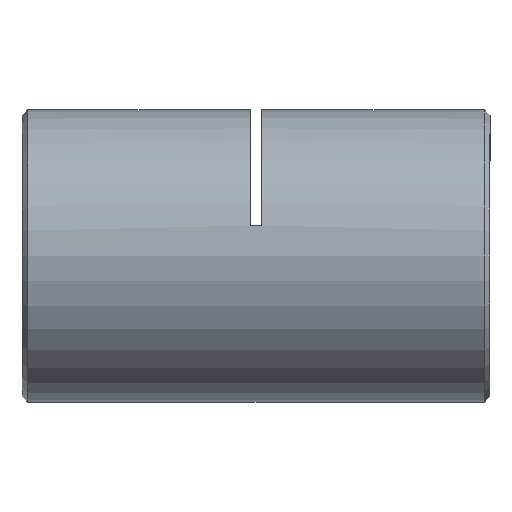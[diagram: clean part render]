
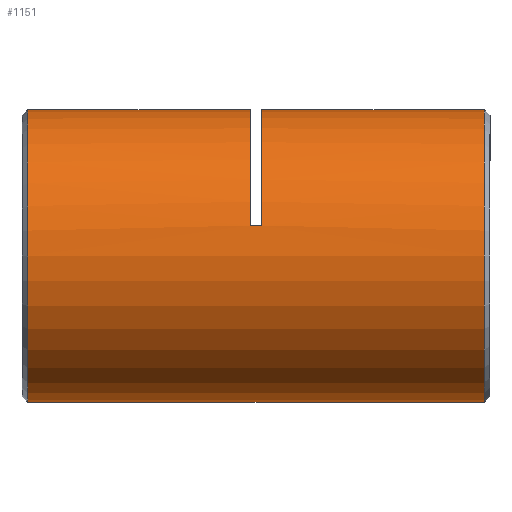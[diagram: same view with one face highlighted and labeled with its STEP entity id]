
A CAD part, left-side view. The second image highlights one B-rep face of the part: STEP entity #1151.
In plain terms, the highlighted cylindrical face has radius 12.5 mm (diameter 25 mm), a partial arc.
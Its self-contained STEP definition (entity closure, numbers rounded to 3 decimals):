
#78 = DIRECTION ( 'NONE',  ( 0., 0., 1. ) ) ;
#261 = AXIS2_PLACEMENT_3D ( 'NONE', #5643, #1673, #3396 ) ;
#280 = ORIENTED_EDGE ( 'NONE', *, *, #2917, .T. ) ;
#310 = EDGE_LOOP ( 'NONE', ( #4149, #280, #1428, #437, #1981, #483, #563, #663 ) ) ;
#332 = AXIS2_PLACEMENT_3D ( 'NONE', #4377, #4822, #4762 ) ;
#437 = ORIENTED_EDGE ( 'NONE', *, *, #2556, .T. ) ;
#483 = ORIENTED_EDGE ( 'NONE', *, *, #3831, .F. ) ;
#563 = ORIENTED_EDGE ( 'NONE', *, *, #3289, .T. ) ;
#663 = ORIENTED_EDGE ( 'NONE', *, *, #974, .T. ) ;
#816 = VECTOR ( 'NONE', #3293, 1000. ) ;
#843 = LINE ( 'NONE', #2396, #2603 ) ;
#974 = EDGE_CURVE ( 'NONE', #3941, #1284, #4485, .T. ) ;
#982 = CARTESIAN_POINT ( 'NONE',  ( -12.226, 19.75, 2.604 ) ) ;
#1151 = ADVANCED_FACE ( 'NONE', ( #5743 ), #3408, .T. ) ;
#1260 = CARTESIAN_POINT ( 'NONE',  ( 0., 0.75, 0. ) ) ;
#1284 = VERTEX_POINT ( 'NONE', #1870 ) ;
#1341 = DIRECTION ( 'NONE',  ( 0., 1., 0. ) ) ;
#1428 = ORIENTED_EDGE ( 'NONE', *, *, #4267, .T. ) ;
#1603 = CARTESIAN_POINT ( 'NONE',  ( -12.226, 20.25, 2.604 ) ) ;
#1673 = DIRECTION ( 'NONE',  ( 0., -1., 0. ) ) ;
#1844 = DIRECTION ( 'NONE',  ( 0., -1., 0. ) ) ;
#1845 = DIRECTION ( 'NONE',  ( 0., 1., 0. ) ) ;
#1870 = CARTESIAN_POINT ( 'NONE',  ( 0., 20.75, 12.5 ) ) ;
#1981 = ORIENTED_EDGE ( 'NONE', *, *, #4294, .F. ) ;
#2088 = CARTESIAN_POINT ( 'NONE',  ( 0., 40.5, 12.5 ) ) ;
#2103 = DIRECTION ( 'NONE',  ( 0., 1., 0. ) ) ;
#2328 = CIRCLE ( 'NONE', #4126, 12.5 ) ;
#2351 = VERTEX_POINT ( 'NONE', #982 ) ;
#2396 = CARTESIAN_POINT ( 'NONE',  ( 0., 40.5, -12.5 ) ) ;
#2432 = VECTOR ( 'NONE', #5721, 1000. ) ;
#2459 = VERTEX_POINT ( 'NONE', #4261 ) ;
#2556 = EDGE_CURVE ( 'NONE', #3042, #4978, #4136, .T. ) ;
#2603 = VECTOR ( 'NONE', #1844, 1000. ) ;
#2741 = CARTESIAN_POINT ( 'NONE',  ( 0., 19.75, 0. ) ) ;
#2908 = VECTOR ( 'NONE', #3094, 1000. ) ;
#2917 = EDGE_CURVE ( 'NONE', #5025, #2459, #4045, .T. ) ;
#3042 = VERTEX_POINT ( 'NONE', #4010 ) ;
#3047 = DIRECTION ( 'NONE',  ( 0., 0., 1. ) ) ;
#3094 = DIRECTION ( 'NONE',  ( 0., -1., 0. ) ) ;
#3152 = CARTESIAN_POINT ( 'NONE',  ( 0., 39.75, 12.5 ) ) ;
#3260 = LINE ( 'NONE', #5541, #816 ) ;
#3289 = EDGE_CURVE ( 'NONE', #2351, #3941, #4829, .T. ) ;
#3293 = DIRECTION ( 'NONE',  ( 0., -1., 0. ) ) ;
#3396 = DIRECTION ( 'NONE',  ( 0., 0., -1. ) ) ;
#3408 = CYLINDRICAL_SURFACE ( 'NONE', #332, 12.5 ) ;
#3531 = LINE ( 'NONE', #2088, #2908 ) ;
#3584 = CARTESIAN_POINT ( 'NONE',  ( 0., 20.75, 0. ) ) ;
#3656 = VERTEX_POINT ( 'NONE', #4397 ) ;
#3831 = EDGE_CURVE ( 'NONE', #2351, #3656, #2328, .T. ) ;
#3941 = VERTEX_POINT ( 'NONE', #4801 ) ;
#4010 = CARTESIAN_POINT ( 'NONE',  ( 0., 0.75, -12.5 ) ) ;
#4045 = CIRCLE ( 'NONE', #261, 12.5 ) ;
#4126 = AXIS2_PLACEMENT_3D ( 'NONE', #2741, #1341, #78 ) ;
#4136 = CIRCLE ( 'NONE', #5642, 12.5 ) ;
#4149 = ORIENTED_EDGE ( 'NONE', *, *, #5267, .F. ) ;
#4261 = CARTESIAN_POINT ( 'NONE',  ( 0., 39.75, -12.5 ) ) ;
#4267 = EDGE_CURVE ( 'NONE', #2459, #3042, #843, .T. ) ;
#4294 = EDGE_CURVE ( 'NONE', #3656, #4978, #3260, .T. ) ;
#4377 = CARTESIAN_POINT ( 'NONE',  ( 0., 40.5, 0. ) ) ;
#4388 = AXIS2_PLACEMENT_3D ( 'NONE', #3584, #1845, #4564 ) ;
#4397 = CARTESIAN_POINT ( 'NONE',  ( 0., 19.75, 12.5 ) ) ;
#4485 = CIRCLE ( 'NONE', #4388, 12.5 ) ;
#4564 = DIRECTION ( 'NONE',  ( 0., 0., 1. ) ) ;
#4762 = DIRECTION ( 'NONE',  ( 0., 0., -1. ) ) ;
#4801 = CARTESIAN_POINT ( 'NONE',  ( -12.226, 20.75, 2.604 ) ) ;
#4822 = DIRECTION ( 'NONE',  ( 0., -1., 0. ) ) ;
#4829 = LINE ( 'NONE', #1603, #2432 ) ;
#4978 = VERTEX_POINT ( 'NONE', #5820 ) ;
#5025 = VERTEX_POINT ( 'NONE', #3152 ) ;
#5267 = EDGE_CURVE ( 'NONE', #5025, #1284, #3531, .T. ) ;
#5541 = CARTESIAN_POINT ( 'NONE',  ( 0., 40.5, 12.5 ) ) ;
#5642 = AXIS2_PLACEMENT_3D ( 'NONE', #1260, #2103, #3047 ) ;
#5643 = CARTESIAN_POINT ( 'NONE',  ( 0., 39.75, 0. ) ) ;
#5721 = DIRECTION ( 'NONE',  ( 0., 1., 0. ) ) ;
#5743 = FACE_OUTER_BOUND ( 'NONE', #310, .T. ) ;
#5820 = CARTESIAN_POINT ( 'NONE',  ( 0., 0.75, 12.5 ) ) ;
